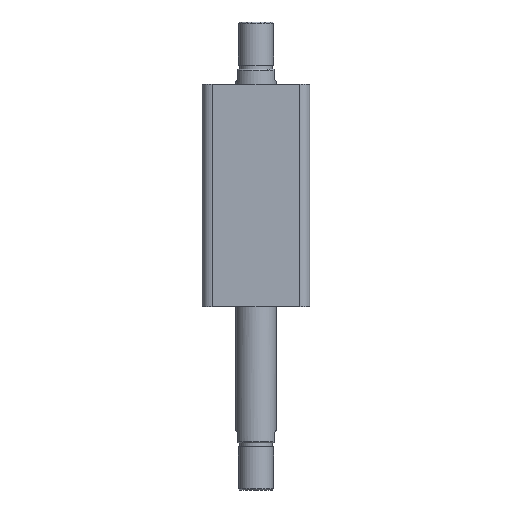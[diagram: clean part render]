
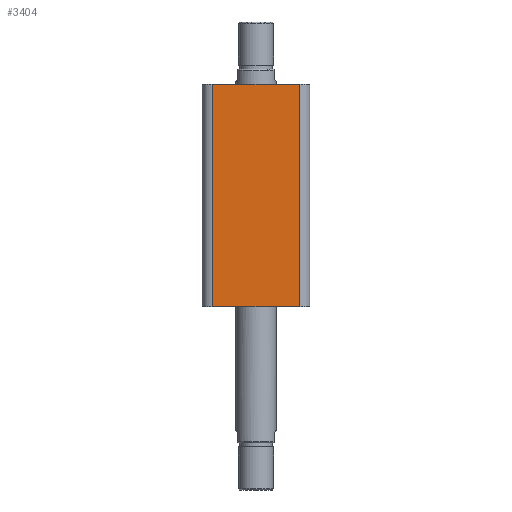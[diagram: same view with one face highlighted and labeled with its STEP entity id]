
A CAD part, front view. The second image highlights one B-rep face of the part: STEP entity #3404.
In plain terms, the highlighted planar face has unit normal (0, -1, 0).
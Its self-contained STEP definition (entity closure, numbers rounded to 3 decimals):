
#26 = CARTESIAN_POINT ( 'NONE',  ( 32., -40., 165. ) ) ;
#29 = CARTESIAN_POINT ( 'NONE',  ( -32., -40., 165. ) ) ;
#276 = CARTESIAN_POINT ( 'NONE',  ( -40., -40., 0. ) ) ;
#295 = CARTESIAN_POINT ( 'NONE',  ( -40., -40., 165. ) ) ;
#296 = DIRECTION ( 'NONE',  ( 1., 0., 0. ) ) ;
#297 = CARTESIAN_POINT ( 'NONE',  ( -32., -40., 165. ) ) ;
#298 = DIRECTION ( 'NONE',  ( 0., 0., -1. ) ) ;
#299 = DIRECTION ( 'NONE',  ( 1., 0., 0. ) ) ;
#300 = CARTESIAN_POINT ( 'NONE',  ( 32., -40., 165. ) ) ;
#301 = DIRECTION ( 'NONE',  ( 0., 0., 1. ) ) ;
#680 = CARTESIAN_POINT ( 'NONE',  ( -40., -40., 165. ) ) ;
#686 = PLANE ( 'NONE',  #996 ) ;
#688 = DIRECTION ( 'NONE',  ( 0., 1., 0. ) ) ;
#689 = DIRECTION ( 'NONE',  ( 0., 0., 1. ) ) ;
#996 = AXIS2_PLACEMENT_3D ( 'NONE', #680, #688, #689 ) ;
#1145 = VERTEX_POINT ( 'NONE', #29 ) ;
#1156 = VERTEX_POINT ( 'NONE', #26 ) ;
#1159 = VERTEX_POINT ( 'NONE', #3433 ) ;
#1160 = VERTEX_POINT ( 'NONE', #3430 ) ;
#1221 = ORIENTED_EDGE ( 'NONE', *, *, #3017, .F. ) ;
#1224 = ORIENTED_EDGE ( 'NONE', *, *, #3018, .T. ) ;
#1230 = ORIENTED_EDGE ( 'NONE', *, *, #3019, .T. ) ;
#1399 = ORIENTED_EDGE ( 'NONE', *, *, #3020, .T. ) ;
#1874 = EDGE_LOOP ( 'NONE', ( #1221, #1224, #1230, #1399 ) ) ;
#2494 = LINE ( 'NONE', #276, #2507 ) ;
#2500 = LINE ( 'NONE', #295, #2503 ) ;
#2502 = LINE ( 'NONE', #297, #2505 ) ;
#2503 = VECTOR ( 'NONE', #296, 1000. ) ;
#2505 = VECTOR ( 'NONE', #298, 1000. ) ;
#2506 = LINE ( 'NONE', #300, #2509 ) ;
#2507 = VECTOR ( 'NONE', #299, 1000. ) ;
#2509 = VECTOR ( 'NONE', #301, 1000. ) ;
#2887 = FACE_OUTER_BOUND ( 'NONE', #1874, .T. ) ;
#3017 = EDGE_CURVE ( 'NONE', #1145, #1156, #2500, .T. ) ;
#3018 = EDGE_CURVE ( 'NONE', #1145, #1159, #2502, .T. ) ;
#3019 = EDGE_CURVE ( 'NONE', #1159, #1160, #2494, .T. ) ;
#3020 = EDGE_CURVE ( 'NONE', #1160, #1156, #2506, .T. ) ;
#3404 = ADVANCED_FACE ( 'NONE', ( #2887 ), #686, .F. ) ;
#3430 = CARTESIAN_POINT ( 'NONE',  ( 32., -40., 0. ) ) ;
#3433 = CARTESIAN_POINT ( 'NONE',  ( -32., -40., 0. ) ) ;
